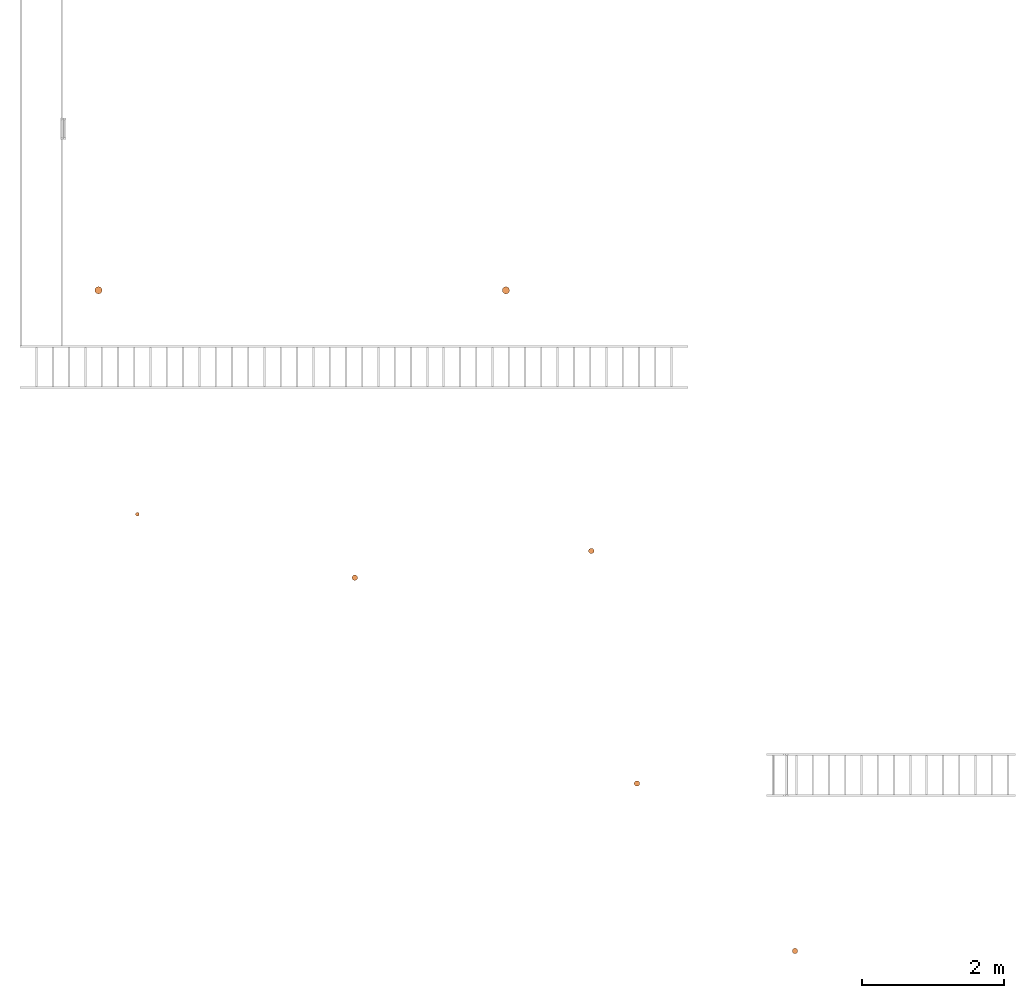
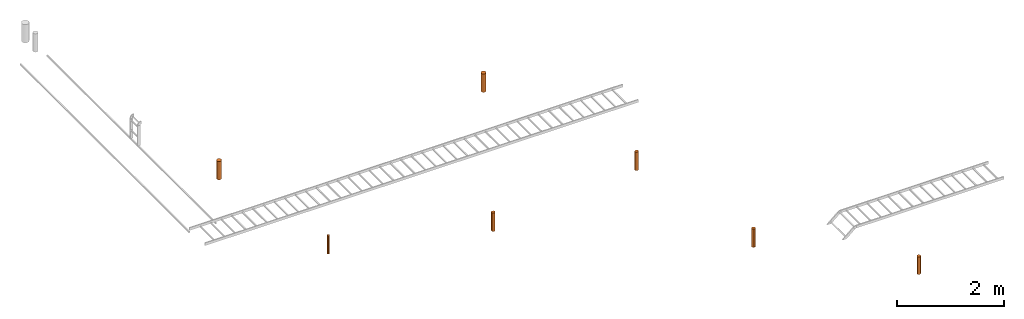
# One storey, part 4 of 5: 7 proxies.
"""IFC2X3 building model written with IfcOpenShell, lengths in millimetres."""

from ifc_helpers import new_model, entity, si_unit, converted_unit, derived_unit, direction, frame, origin_with_axes, origin_2d_with_axis, place, context, subcontext, project, spatial, circle, extrude, source, transform, mapped, element, save


model = new_model("IFC2X3")

# Units and contexts
model_context = context("Model", 3, precision=0.01, world=frame((0.0, 4.29681676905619e-09, 0.0)), true_north=direction((4.01073788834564e-13, 1.0)))
plan_context = context("Plan", 3, precision=0.01, world=frame((0.0, 4.29681676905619e-09, 0.0)), true_north=direction((4.01073788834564e-13, 1.0)))
body_context = subcontext(model_context, "Body", "Model", "MODEL_VIEW")
ifc_project = project(units=[converted_unit("PLANEANGLEUNIT", "DEGREE", entity("IfcPositiveLengthMeasure", 0.0174532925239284), si_unit("PLANEANGLEUNIT", "RADIAN"), dimensions=[0, 0, 0, 0, 0, 0, 0]), si_unit("AREAUNIT", "SQUARE_METRE"), si_unit("LENGTHUNIT", "METRE", prefix="MILLI"), si_unit("MASSUNIT", "GRAM", prefix="KILO"), si_unit("POWERUNIT", "WATT"), si_unit("PRESSUREUNIT", "PASCAL"), si_unit("FORCEUNIT", "NEWTON", prefix="KILO"), si_unit("ELECTRICCURRENTUNIT", "AMPERE"), si_unit("THERMODYNAMICTEMPERATUREUNIT", "DEGREE_CELSIUS"), si_unit("TIMEUNIT", "SECOND"), si_unit("VOLUMEUNIT", "CUBIC_METRE"), derived_unit("LINEARVELOCITYUNIT", [(si_unit("LENGTHUNIT", "METRE"), 1), (si_unit("TIMEUNIT", "SECOND"), -1)]), derived_unit("VOLUMETRICFLOWRATEUNIT", [(si_unit("VOLUMEUNIT", "CUBIC_METRE"), 1), (si_unit("TIMEUNIT", "SECOND"), -1)]), derived_unit("THERMALTRANSMITTANCEUNIT", [(si_unit("POWERUNIT", "WATT"), 1), (si_unit("THERMODYNAMICTEMPERATUREUNIT", "KELVIN"), -1), (si_unit("AREAUNIT", "SQUARE_METRE"), -1)])], contexts=[model_context, plan_context])

# Site, building, storey
site_placement = place(None, frame((0.0, -4.29681676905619e-09, 0.0), z_axis=(0.0, 0.0, 1.0), x_axis=(1.0, 0.0, 0.0)))
site = spatial("IfcSite", under=ifc_project, at=site_placement, Name="ENGM", CompositionType="ELEMENT")
building_placement = place(site_placement, frame((0.0, 4.29681676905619e-09, 0.0), z_axis=(0.0, 0.0, 1.0), x_axis=(1.0, 0.0, 0.0)))
building = spatial("IfcBuilding", under=site, at=building_placement, Name="TS", CompositionType="ELEMENT")
storey_placement = place(building_placement, frame((0.0, 0.0, 200300.0), z_axis=(0.0, 0.0, 1.0), x_axis=(1.0, 0.0, 0.0)))
storey = spatial("IfcBuildingStorey", under=building, at=storey_placement, Name="Nivå C", CompositionType="ELEMENT", Elevation=200300.0)

# Proxies
shared_shape_1 = source(origin_with_axes(), body_context, "Body", "SweptSolid", [
    extrude(circle(Radius=50.0, at=origin_2d_with_axis()), frame((0.0, 0.0, 0.0), z_axis=(1.0, 0.0, 0.0), x_axis=(0.0, 1.0, 0.0)), (0.0, 0.0, 1.0), 420.0),
])
for number, where, z_axis, x_axis in (
    (1, (519220.0, 414775.0, 3090.0), (0.0, 1.0, 0.0), (0.0, 0.0, 1.0)),
    (2, (524940.0, 414775.0, 3090.0), (0.0, 1.0, 0.0), (0.0, 0.0, 1.0)),
):
    element("IfcBuildingElementProxy", number, at=place(storey_placement, frame(where, z_axis=z_axis, x_axis=x_axis)), inside=storey, Name="MagiCAD_ProvisionForVoid", ObjectType="ProvisionForVoid", CompositionType="ELEMENT", context=body_context, shape_type="MappedRepresentation", body=[
        mapped(shared_shape_1, transform((0.0, 0.0, 0.0), scale=1.0)),
    ])
shared_shape_2 = source(origin_with_axes(), body_context, "Body", "SweptSolid", [
    extrude(circle(Radius=25.0, at=origin_2d_with_axis()), frame((0.0, 0.0, 0.0), z_axis=(1.0, 0.0, 0.0), x_axis=(0.0, 1.0, 0.0)), (0.0, 0.0, 1.0), 420.0),
])
proxy_1_placement = place(storey_placement, frame((519767.0, 411630.0, 3090.0), z_axis=(0.0, 1.0, 0.0), x_axis=(0.0, 0.0, 1.0)))
element("IfcBuildingElementProxy", 3, at=proxy_1_placement, inside=storey, Name="MagiCAD_ProvisionForVoid", ObjectType="ProvisionForVoid", CompositionType="ELEMENT", context=body_context, shape_type="MappedRepresentation", body=[
    mapped(shared_shape_2, transform((0.0, 0.0, 0.0), scale=1.0)),
])
shared_shape_3 = source(origin_with_axes(), body_context, "Body", "SweptSolid", [
    extrude(circle(Radius=38.0, at=origin_2d_with_axis()), frame((0.0, 0.0, 0.0), z_axis=(1.0, 0.0, 0.0), x_axis=(0.0, 1.0, 0.0)), (0.0, 0.0, 1.0), 400.0),
])
proxy_2_placement = place(storey_placement, frame((529000.0, 405500.0, 3120.0), z_axis=(0.0, 1.0, 0.0), x_axis=(0.0, 0.0, 1.0)))
element("IfcBuildingElementProxy", 4, at=proxy_2_placement, inside=storey, Name="MagiCAD_ProvisionForVoid", ObjectType="ProvisionForVoid", CompositionType="ELEMENT", context=body_context, shape_type="MappedRepresentation", body=[
    mapped(shared_shape_3, transform((0.0, 0.0, 0.0), scale=1.0)),
])
shared_shape_4 = source(origin_with_axes(), body_context, "Body", "SweptSolid", [
    extrude(circle(Radius=38.0, at=origin_2d_with_axis()), frame((0.0, 0.0, 0.0), z_axis=(1.0, 0.0, 0.0), x_axis=(0.0, 1.0, 0.0)), (0.0, 0.0, 1.0), 420.0),
])
for number, where, z_axis, x_axis in (
    (5, (526780.0, 407850.0, 3090.0), (0.0, 1.0, 0.0), (0.0, 0.0, 1.0)),
    (6, (526140.0, 411115.0, 3090.0), (0.0, 1.0, 0.0), (0.0, 0.0, 1.0)),
    (7, (522820.0, 410740.0, 3090.0), (0.0, 1.0, 0.0), (0.0, 0.0, 1.0)),
):
    element("IfcBuildingElementProxy", number, at=place(storey_placement, frame(where, z_axis=z_axis, x_axis=x_axis)), inside=storey, Name="MagiCAD_ProvisionForVoid", ObjectType="ProvisionForVoid", CompositionType="ELEMENT", context=body_context, shape_type="MappedRepresentation", body=[
        mapped(shared_shape_4, transform((0.0, 0.0, 0.0), scale=1.0)),
    ])

save(model, "model.ifc")
